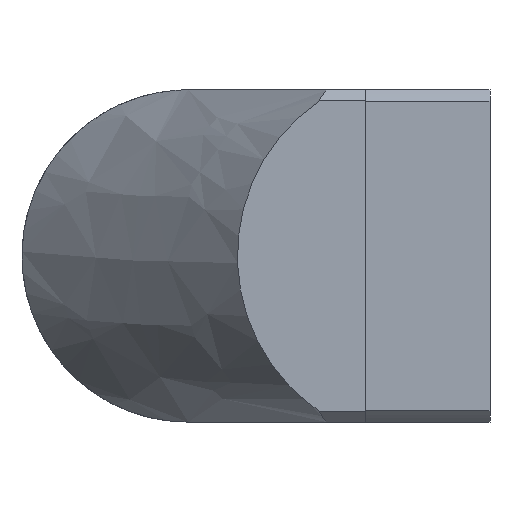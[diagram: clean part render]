
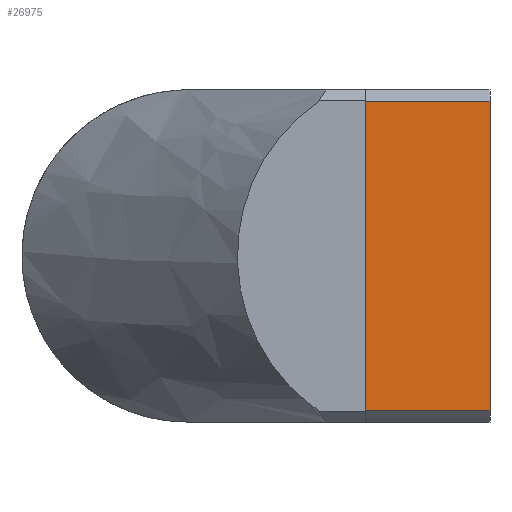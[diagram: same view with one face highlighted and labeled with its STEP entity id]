
A CAD part, front view. The second image highlights one B-rep face of the part: STEP entity #26975.
In plain terms, the highlighted planar face has unit normal (0, -1, 0).
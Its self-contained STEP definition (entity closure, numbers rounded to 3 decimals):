
#3370 = EDGE_CURVE ( 'NONE', #19585, #19807, #29068, .T. ) ;
#5604 = DIRECTION ( 'NONE',  ( 0., -1., 0. ) ) ;
#5972 = DIRECTION ( 'NONE',  ( 1., 0., 0. ) ) ;
#6136 = CARTESIAN_POINT ( 'NONE',  ( -60., -60., -45. ) ) ;
#9439 = VECTOR ( 'NONE', #18156, 1000. ) ;
#9825 = EDGE_CURVE ( 'NONE', #11179, #19585, #20669, .T. ) ;
#10028 = CARTESIAN_POINT ( 'NONE',  ( 55.893, -60., -45. ) ) ;
#11179 = VERTEX_POINT ( 'NONE', #12119 ) ;
#12119 = CARTESIAN_POINT ( 'NONE',  ( -55.893, -60., -45. ) ) ;
#13199 = ORIENTED_EDGE ( 'NONE', *, *, #9825, .T. ) ;
#13454 = CARTESIAN_POINT ( 'NONE',  ( 0., -60., 0. ) ) ;
#16067 = EDGE_CURVE ( 'NONE', #11179, #42118, #29972, .T. ) ;
#18000 = CARTESIAN_POINT ( 'NONE',  ( 55.893, -60., -45. ) ) ;
#18156 = DIRECTION ( 'NONE',  ( 0., 0., 1. ) ) ;
#19585 = VERTEX_POINT ( 'NONE', #10028 ) ;
#19807 = VERTEX_POINT ( 'NONE', #38103 ) ;
#20169 = PLANE ( 'NONE',  #34526 ) ;
#20669 = LINE ( 'NONE', #6136, #39199 ) ;
#20804 = VECTOR ( 'NONE', #35616, 1000. ) ;
#22870 = FACE_OUTER_BOUND ( 'NONE', #42298, .T. ) ;
#23602 = EDGE_CURVE ( 'NONE', #19807, #42118, #30662, .T. ) ;
#26975 = ADVANCED_FACE ( 'NONE', ( #22870 ), #20169, .T. ) ;
#27605 = CARTESIAN_POINT ( 'NONE',  ( -60., -60., -45. ) ) ;
#29068 = LINE ( 'NONE', #18000, #9439 ) ;
#29972 = LINE ( 'NONE', #37572, #46029 ) ;
#30662 = LINE ( 'NONE', #13454, #20804 ) ;
#31385 = DIRECTION ( 'NONE',  ( 0., 0., -1. ) ) ;
#31935 = ORIENTED_EDGE ( 'NONE', *, *, #3370, .T. ) ;
#34526 = AXIS2_PLACEMENT_3D ( 'NONE', #27605, #5604, #31385 ) ;
#35616 = DIRECTION ( 'NONE',  ( -1., 0., 0. ) ) ;
#37480 = DIRECTION ( 'NONE',  ( 0., 0., 1. ) ) ;
#37572 = CARTESIAN_POINT ( 'NONE',  ( -55.893, -60., 0. ) ) ;
#38103 = CARTESIAN_POINT ( 'NONE',  ( 55.893, -60., 0. ) ) ;
#39199 = VECTOR ( 'NONE', #5972, 1000. ) ;
#41690 = ORIENTED_EDGE ( 'NONE', *, *, #23602, .T. ) ;
#42118 = VERTEX_POINT ( 'NONE', #44236 ) ;
#42181 = ORIENTED_EDGE ( 'NONE', *, *, #16067, .F. ) ;
#42298 = EDGE_LOOP ( 'NONE', ( #42181, #13199, #31935, #41690 ) ) ;
#44236 = CARTESIAN_POINT ( 'NONE',  ( -55.893, -60., 0. ) ) ;
#46029 = VECTOR ( 'NONE', #37480, 1000. ) ;
